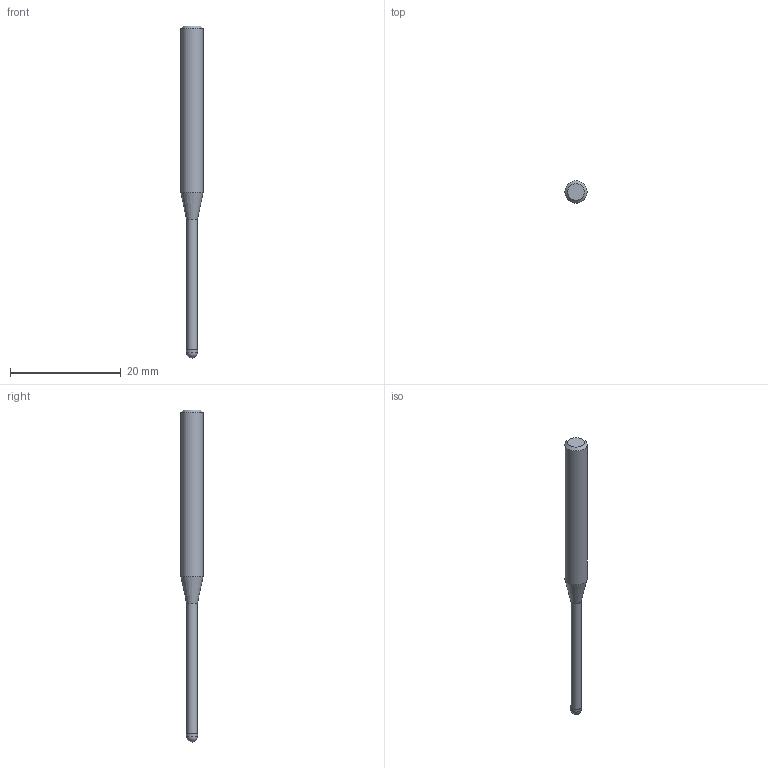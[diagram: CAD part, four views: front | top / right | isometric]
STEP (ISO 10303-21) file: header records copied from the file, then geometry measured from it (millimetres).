
FILE_DESCRIPTION((''),'2;1');
FILE_NAME('C:\Users\nsx150\AppData\Local\Temp\Mastercam 2021\ZXBT0ST9RL\TEMP.step','2021-06-25T11:03:15',(''),(''),'STEP Write','Mastercam 2021 ... CNC Software, Inc.','');
FILE_SCHEMA(('AUTOMOTIVE_DESIGN'));
Length unit declared in the file: millimetre
Products named in the file (1): None
Bounding box: 4 x 4 x 60 mm (x, y, z)
Volume: 485.5 mm3; surface area: 592.5 mm2
Topology: 2 solids, 2 shells, 9 faces, 14 edges, 8 vertices
Faces by surface type: plane 3, cylinder 3, cone 2, sphere 1
Full cylindrical faces by diameter (mm): 1.94 x1, 2 x1, 4 x1
Entity records: 211 total; most frequent: DIRECTION 36, CARTESIAN_POINT 25, AXIS2_PLACEMENT_3D 18, ORIENTED_EDGE 14, EDGE_LOOP 14, STYLED_ITEM 12, ADVANCED_FACE 9, FACE_BOUND 8
